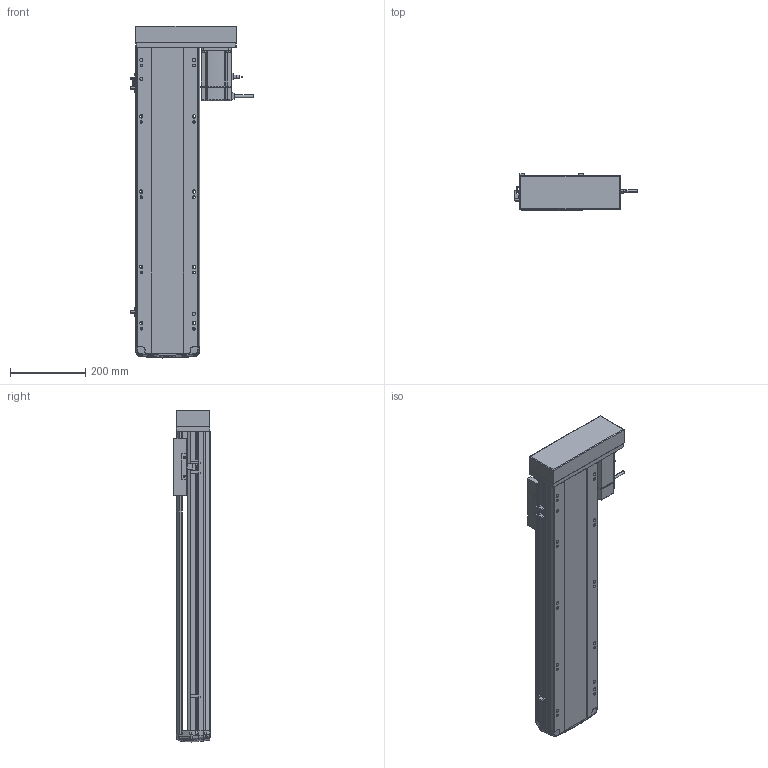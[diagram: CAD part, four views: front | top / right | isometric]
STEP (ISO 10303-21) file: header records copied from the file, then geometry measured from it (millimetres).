
FILE_DESCRIPTION (( 'STEP AP214' ), '1' );
FILE_NAME ('RTH17-XX-600-L-M75-C4.STEP', '2025-10-24T10:29:41', ( '' ), ( '' ), 'SwSTEP 2.0', 'SolidWorks 2018', '' );
FILE_SCHEMA (( 'AUTOMOTIVE_DESIGN' ));
Length unit declared in the file: millimetre
Products named in the file (10): N_RTH17-L-008-P75电机安装板左转折^RTH17-XX-XX-L-M75-C4（方程式）; N_RTH17-E-004丝杆螺母连接座^RTH17-XX-XX-L-M75-C4（方程式）; RTH17-XX-600-L-M75-C4; N_OMRON EE-SX672 換覜ん^RTH17-XX-XX-L-M75-C4ㄗ源最宒ㄘ; N_RTH17-L-018盖子^RTH17-XX-XX-L-M75-C4（方程式）; N_RTH17-M-007上盖^RTH17-XX-XX-L-M75-C4（方程式）; N_RTH17-M-011底座^RTH17-XX-XX-L-M75-C4（方程式）; N_RTH-L-012 感应片(外置)^RTH17-XX-XX-L-M75-C4（方程式）; N_M75^RTH17-XX-XX-L-M75-C4（方程式）; N_RTH17-GY-001P^RTH17-XX-XX-L-M75-C4（方程式）
Assembly tree (11 placements, depth 2):
  RTH17-XX-600-L-M75-C4
    N_RTH17-M-011底座^RTH17-XX-XX-L-M75-C4（方程式）
    N_RTH17-M-007上盖^RTH17-XX-XX-L-M75-C4（方程式）
    N_M75^RTH17-XX-XX-L-M75-C4（方程式）
    N_OMRON EE-SX672 換覜ん^RTH17-XX-XX-L-M75-C4ㄗ源最宒ㄘ  x3
    N_RTH-L-012 感应片(外置)^RTH17-XX-XX-L-M75-C4（方程式）
    N_RTH17-L-008-P75电机安装板左转折^RTH17-XX-XX-L-M75-C4（方程式）
    N_RTH17-L-018盖子^RTH17-XX-XX-L-M75-C4（方程式）
    N_RTH17-E-004丝杆螺母连接座^RTH17-XX-XX-L-M75-C4（方程式）
    N_RTH17-GY-001P^RTH17-XX-XX-L-M75-C4（方程式）
Bounding box: 326.7 x 97 x 882.99 mm (x, y, z)
Volume: 8487684.3 mm3; surface area: 1064893.5 mm2
Topology: 13 solids, 15 shells, 1741 faces, 4781 edges, 3094 vertices
Faces by surface type: plane 831, cylinder 496, bspline 377, cone 28, torus 9
Entity records: 50589 total; most frequent: CARTESIAN_POINT 20241, ORIENTED_EDGE 6586, DIRECTION 5473, EDGE_CURVE 3297, VERTEX_POINT 2130, AXIS2_PLACEMENT_3D 1837, LINE 1799, VECTOR 1799
